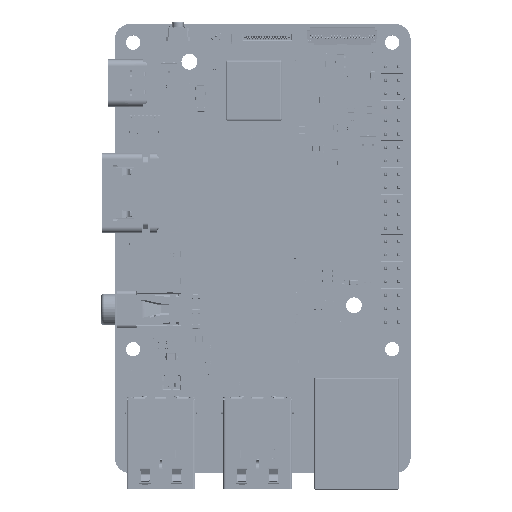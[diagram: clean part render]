
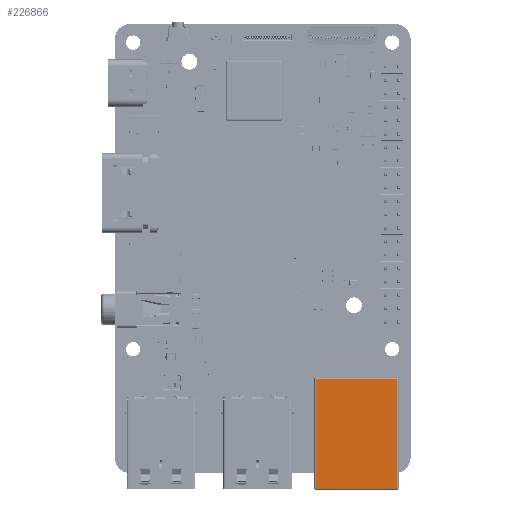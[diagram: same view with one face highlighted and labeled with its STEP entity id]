
A CAD part, top view. The second image highlights one B-rep face of the part: STEP entity #226866.
In plain terms, the highlighted planar face has unit normal (0, 0, 1) as drawn and (0, 1, 0) by its records, which use the part's own axes.
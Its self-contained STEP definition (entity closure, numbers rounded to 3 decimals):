
#219569=DIRECTION('',(0.,0.,1.));
#219570=VECTOR('',#219569,20.79);
#219571=CARTESIAN_POINT('',(-7.735,6.65,0.23));
#219572=LINE('',#219571,#219570);
#219600=DIRECTION('',(-1.,0.,0.));
#219601=VECTOR('',#219600,15.47);
#219602=CARTESIAN_POINT('',(7.735,6.65,0.23));
#219603=LINE('',#219602,#219601);
#219614=DIRECTION('',(0.,0.,-1.));
#219615=VECTOR('',#219614,20.79);
#219616=CARTESIAN_POINT('',(7.735,6.65,21.02));
#219617=LINE('',#219616,#219615);
#219959=DIRECTION('',(1.,0.,0.));
#219960=VECTOR('',#219959,15.47);
#219961=CARTESIAN_POINT('',(-7.735,6.65,21.02));
#219962=LINE('',#219961,#219960);
#226093=CARTESIAN_POINT('',(-7.735,6.65,0.23));
#226094=VERTEX_POINT('',#226093);
#226095=CARTESIAN_POINT('',(-7.735,6.65,21.02));
#226096=VERTEX_POINT('',#226095);
#226097=CARTESIAN_POINT('',(7.735,6.65,0.23));
#226098=VERTEX_POINT('',#226097);
#226099=CARTESIAN_POINT('',(7.735,6.65,21.02));
#226100=VERTEX_POINT('',#226099);
#226853=CARTESIAN_POINT('',(7.965,6.65,0.));
#226854=DIRECTION('',(0.,1.,0.));
#226855=DIRECTION('',(-1.,0.,0.));
#226856=AXIS2_PLACEMENT_3D('',#226853,#226854,#226855);
#226857=PLANE('',#226856);
#226859=ORIENTED_EDGE('',*,*,#226858,.F.);
#226861=ORIENTED_EDGE('',*,*,#226860,.F.);
#226862=ORIENTED_EDGE('',*,*,#226820,.F.);
#226863=ORIENTED_EDGE('',*,*,#226844,.F.);
#226864=EDGE_LOOP('',(#226859,#226861,#226862,#226863));
#226865=FACE_OUTER_BOUND('',#226864,.F.);
#226866=ADVANCED_FACE('',(#226865),#226857,.T.);
#226820=EDGE_CURVE('',#226094,#226096,#219572,.T.);
#226844=EDGE_CURVE('',#226098,#226094,#219603,.T.);
#226858=EDGE_CURVE('',#226100,#226098,#219617,.T.);
#226860=EDGE_CURVE('',#226096,#226100,#219962,.T.);
